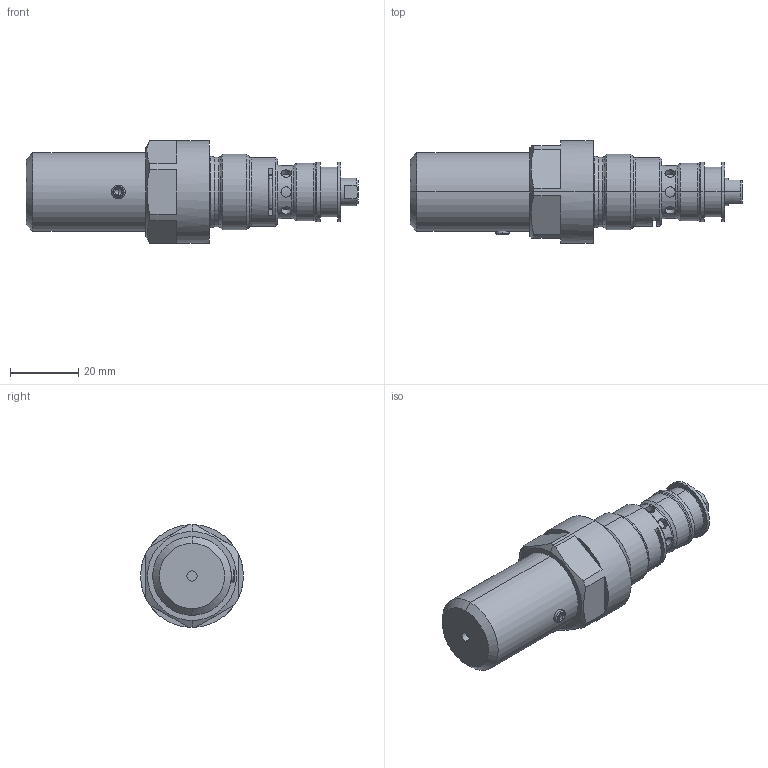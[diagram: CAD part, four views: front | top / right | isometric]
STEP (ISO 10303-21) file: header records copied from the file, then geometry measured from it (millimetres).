
FILE_DESCRIPTION (( 'STEP AP214' ), '1' );
FILE_NAME ('BAAPM22-K9.STEP', '2021-03-05T10:18:10', ( '' ), ( '' ), 'SwSTEP 2.0', 'SolidWorks 2020', '' );
FILE_SCHEMA (( 'AUTOMOTIVE_DESIGN' ));
Length unit declared in the file: millimetre
Products named in the file (1): BAAPM22-K9
Bounding box: 97 x 30 x 30 mm (x, y, z)
Volume: 37348.9 mm3; surface area: 8360.8 mm2
Topology: 1 solids, 1 shells, 154 faces, 347 edges, 210 vertices
Faces by surface type: cylinder 55, plane 53, cone 29, torus 17
Entity records: 6952 total; most frequent: CARTESIAN_POINT 1828, DIRECTION 726, ORIENTED_EDGE 690, EDGE_CURVE 345, AXIS2_PLACEMENT_3D 294, VERTEX_POINT 210, EDGE_LOOP 171, UNCERTAINTY_MEASURE_WITH_UNIT 157
